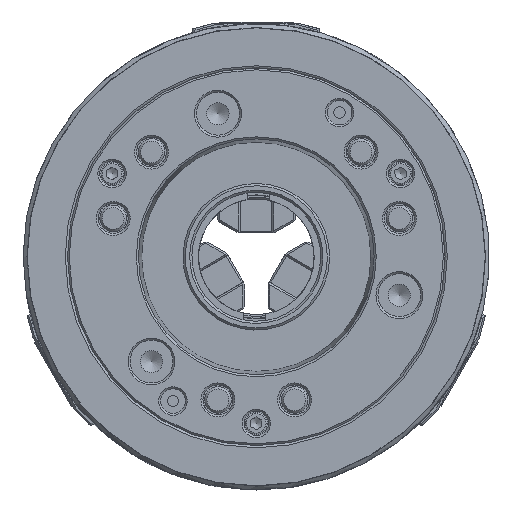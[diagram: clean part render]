
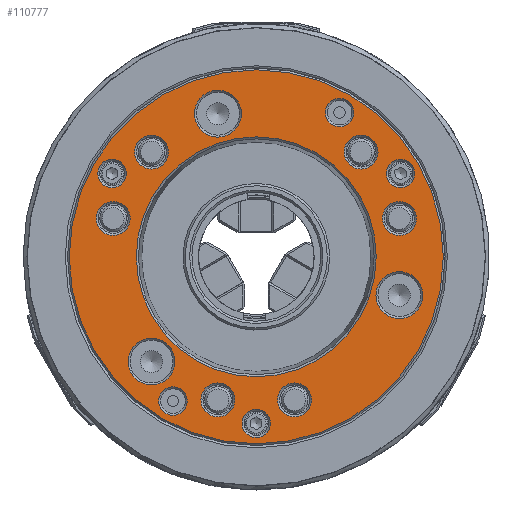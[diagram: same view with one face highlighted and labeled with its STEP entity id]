
A CAD part, front view. The second image highlights one B-rep face of the part: STEP entity #110777.
In plain terms, the highlighted planar face has unit normal (0, -1, 0).
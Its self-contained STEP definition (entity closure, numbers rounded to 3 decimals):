
#31875=PLANE('',#118588);
#32394=FACE_BOUND('',#43412,.T.);
#32395=FACE_BOUND('',#43413,.T.);
#32396=FACE_BOUND('',#43414,.T.);
#32397=FACE_BOUND('',#43415,.T.);
#32398=FACE_BOUND('',#43416,.T.);
#32399=FACE_BOUND('',#43417,.T.);
#32400=FACE_BOUND('',#43418,.T.);
#32401=FACE_BOUND('',#43419,.T.);
#32402=FACE_BOUND('',#43420,.T.);
#32403=FACE_BOUND('',#43421,.T.);
#32404=FACE_BOUND('',#43422,.T.);
#32405=FACE_BOUND('',#43423,.T.);
#32406=FACE_BOUND('',#43424,.T.);
#32407=FACE_BOUND('',#43425,.T.);
#32408=FACE_BOUND('',#43426,.T.);
#37656=FACE_OUTER_BOUND('',#43411,.T.);
#43411=EDGE_LOOP('',(#104083));
#43412=EDGE_LOOP('',(#104084));
#43413=EDGE_LOOP('',(#104085));
#43414=EDGE_LOOP('',(#104086));
#43415=EDGE_LOOP('',(#104087));
#43416=EDGE_LOOP('',(#104088));
#43417=EDGE_LOOP('',(#104089));
#43418=EDGE_LOOP('',(#104090));
#43419=EDGE_LOOP('',(#104091));
#43420=EDGE_LOOP('',(#104092));
#43421=EDGE_LOOP('',(#104093));
#43422=EDGE_LOOP('',(#104094));
#43423=EDGE_LOOP('',(#104095));
#43424=EDGE_LOOP('',(#104096));
#43425=EDGE_LOOP('',(#104097));
#43426=EDGE_LOOP('',(#104098));
#44273=CIRCLE('',#118534,54.012);
#44284=CIRCLE('',#118556,84.2);
#44286=CIRCLE('',#118559,10.55);
#44287=CIRCLE('',#118561,10.55);
#44288=CIRCLE('',#118563,10.55);
#44289=CIRCLE('',#118565,7.65);
#44290=CIRCLE('',#118567,7.65);
#44291=CIRCLE('',#118569,7.65);
#44292=CIRCLE('',#118571,7.65);
#44293=CIRCLE('',#118573,7.65);
#44294=CIRCLE('',#118575,7.65);
#44295=CIRCLE('',#118577,6.4);
#44296=CIRCLE('',#118579,6.4);
#44297=CIRCLE('',#118581,6.4);
#44298=CIRCLE('',#118583,6.4);
#44299=CIRCLE('',#118585,6.4);
#54905=VERTEX_POINT('',#186037);
#54910=VERTEX_POINT('',#186064);
#54912=VERTEX_POINT('',#186069);
#54913=VERTEX_POINT('',#186072);
#54914=VERTEX_POINT('',#186075);
#54915=VERTEX_POINT('',#186078);
#54916=VERTEX_POINT('',#186081);
#54917=VERTEX_POINT('',#186084);
#54918=VERTEX_POINT('',#186087);
#54919=VERTEX_POINT('',#186090);
#54920=VERTEX_POINT('',#186093);
#54921=VERTEX_POINT('',#186096);
#54922=VERTEX_POINT('',#186099);
#54923=VERTEX_POINT('',#186102);
#54924=VERTEX_POINT('',#186105);
#54925=VERTEX_POINT('',#186108);
#71315=EDGE_CURVE('',#54905,#54905,#44273,.T.);
#71326=EDGE_CURVE('',#54910,#54910,#44284,.T.);
#71328=EDGE_CURVE('',#54912,#54912,#44286,.T.);
#71329=EDGE_CURVE('',#54913,#54913,#44287,.T.);
#71330=EDGE_CURVE('',#54914,#54914,#44288,.T.);
#71331=EDGE_CURVE('',#54915,#54915,#44289,.T.);
#71332=EDGE_CURVE('',#54916,#54916,#44290,.T.);
#71333=EDGE_CURVE('',#54917,#54917,#44291,.T.);
#71334=EDGE_CURVE('',#54918,#54918,#44292,.T.);
#71335=EDGE_CURVE('',#54919,#54919,#44293,.T.);
#71336=EDGE_CURVE('',#54920,#54920,#44294,.T.);
#71337=EDGE_CURVE('',#54921,#54921,#44295,.T.);
#71338=EDGE_CURVE('',#54922,#54922,#44296,.T.);
#71339=EDGE_CURVE('',#54923,#54923,#44297,.T.);
#71340=EDGE_CURVE('',#54924,#54924,#44298,.T.);
#71341=EDGE_CURVE('',#54925,#54925,#44299,.T.);
#104083=ORIENTED_EDGE('',*,*,#71326,.T.);
#104084=ORIENTED_EDGE('',*,*,#71341,.T.);
#104085=ORIENTED_EDGE('',*,*,#71340,.T.);
#104086=ORIENTED_EDGE('',*,*,#71339,.T.);
#104087=ORIENTED_EDGE('',*,*,#71338,.T.);
#104088=ORIENTED_EDGE('',*,*,#71337,.T.);
#104089=ORIENTED_EDGE('',*,*,#71336,.T.);
#104090=ORIENTED_EDGE('',*,*,#71335,.T.);
#104091=ORIENTED_EDGE('',*,*,#71334,.T.);
#104092=ORIENTED_EDGE('',*,*,#71333,.T.);
#104093=ORIENTED_EDGE('',*,*,#71332,.T.);
#104094=ORIENTED_EDGE('',*,*,#71331,.T.);
#104095=ORIENTED_EDGE('',*,*,#71330,.T.);
#104096=ORIENTED_EDGE('',*,*,#71329,.T.);
#104097=ORIENTED_EDGE('',*,*,#71328,.T.);
#104098=ORIENTED_EDGE('',*,*,#71315,.T.);
#110777=ADVANCED_FACE('',(#37656,#32394,#32395,#32396,#32397,#32398,#32399,
#32400,#32401,#32402,#32403,#32404,#32405,#32406,#32407,#32408),#31875,
 .T.);
#118534=AXIS2_PLACEMENT_3D('',#186038,#146250,#146251);
#118556=AXIS2_PLACEMENT_3D('',#186065,#146294,#146295);
#118559=AXIS2_PLACEMENT_3D('',#186070,#146300,#146301);
#118561=AXIS2_PLACEMENT_3D('',#186073,#146304,#146305);
#118563=AXIS2_PLACEMENT_3D('',#186076,#146308,#146309);
#118565=AXIS2_PLACEMENT_3D('',#186079,#146312,#146313);
#118567=AXIS2_PLACEMENT_3D('',#186082,#146316,#146317);
#118569=AXIS2_PLACEMENT_3D('',#186085,#146320,#146321);
#118571=AXIS2_PLACEMENT_3D('',#186088,#146324,#146325);
#118573=AXIS2_PLACEMENT_3D('',#186091,#146328,#146329);
#118575=AXIS2_PLACEMENT_3D('',#186094,#146332,#146333);
#118577=AXIS2_PLACEMENT_3D('',#186097,#146336,#146337);
#118579=AXIS2_PLACEMENT_3D('',#186100,#146340,#146341);
#118581=AXIS2_PLACEMENT_3D('',#186103,#146344,#146345);
#118583=AXIS2_PLACEMENT_3D('',#186106,#146348,#146349);
#118585=AXIS2_PLACEMENT_3D('',#186109,#146352,#146353);
#118588=AXIS2_PLACEMENT_3D('',#186112,#146358,#146359);
#146250=DIRECTION('center_axis',(0.,1.,0.));
#146251=DIRECTION('ref_axis',(0.866,0.,-0.5));
#146294=DIRECTION('center_axis',(0.,-1.,0.));
#146295=DIRECTION('ref_axis',(0.866,0.,-0.5));
#146300=DIRECTION('center_axis',(0.,1.,0.));
#146301=DIRECTION('ref_axis',(0.866,0.,-0.5));
#146304=DIRECTION('center_axis',(0.,1.,0.));
#146305=DIRECTION('ref_axis',(-0.866,0.,
-0.5));
#146308=DIRECTION('center_axis',(0.,1.,0.));
#146309=DIRECTION('ref_axis',(0.,0.,
1.));
#146312=DIRECTION('center_axis',(0.,1.,0.));
#146313=DIRECTION('ref_axis',(0.866,0.,-0.5));
#146316=DIRECTION('center_axis',(0.,1.,0.));
#146317=DIRECTION('ref_axis',(0.866,0.,-0.5));
#146320=DIRECTION('center_axis',(0.,1.,0.));
#146321=DIRECTION('ref_axis',(-0.866,0.,
-0.5));
#146324=DIRECTION('center_axis',(0.,1.,0.));
#146325=DIRECTION('ref_axis',(-0.866,0.,
-0.5));
#146328=DIRECTION('center_axis',(0.,1.,0.));
#146329=DIRECTION('ref_axis',(0.,0.,
1.));
#146332=DIRECTION('center_axis',(0.,1.,0.));
#146333=DIRECTION('ref_axis',(0.,0.,
1.));
#146336=DIRECTION('center_axis',(0.,1.,0.));
#146337=DIRECTION('ref_axis',(0.866,0.,-0.5));
#146340=DIRECTION('center_axis',(0.,1.,0.));
#146341=DIRECTION('ref_axis',(-0.866,0.,
0.5));
#146344=DIRECTION('center_axis',(0.,1.,0.));
#146345=DIRECTION('ref_axis',(0.866,0.,-0.5));
#146348=DIRECTION('center_axis',(0.,1.,0.));
#146349=DIRECTION('ref_axis',(-0.866,0.,
-0.5));
#146352=DIRECTION('center_axis',(0.,1.,0.));
#146353=DIRECTION('ref_axis',(0.,0.,
1.));
#146358=DIRECTION('center_axis',(0.,-1.,0.));
#146359=DIRECTION('ref_axis',(0.5,0.,0.866));
#186037=CARTESIAN_POINT('',(-46.776,-12.,27.006));
#186038=CARTESIAN_POINT('Origin',(0.,-12.,0.));
#186064=CARTESIAN_POINT('',(-72.919,-12.,42.1));
#186065=CARTESIAN_POINT('Origin',(0.,-12.,0.));
#186069=CARTESIAN_POINT('',(-56.301,-12.,-41.889));
#186070=CARTESIAN_POINT('Origin',(-47.164,-12.,-47.164));
#186072=CARTESIAN_POINT('',(-8.127,-12.,69.702));
#186073=CARTESIAN_POINT('Origin',(-17.263,-12.,64.427));
#186075=CARTESIAN_POINT('',(64.427,-12.,-27.813));
#186076=CARTESIAN_POINT('Origin',(64.427,-12.,-17.263));
#186078=CARTESIAN_POINT('',(40.539,-12.,50.989));
#186079=CARTESIAN_POINT('Origin',(47.164,-12.,47.164));
#186081=CARTESIAN_POINT('',(57.802,-12.,21.088));
#186082=CARTESIAN_POINT('Origin',(64.427,-12.,17.263));
#186084=CARTESIAN_POINT('',(23.888,-12.,-60.602));
#186085=CARTESIAN_POINT('Origin',(17.263,-12.,-64.427));
#186087=CARTESIAN_POINT('',(-10.638,-12.,-60.602));
#186088=CARTESIAN_POINT('Origin',(-17.263,-12.,-64.427));
#186090=CARTESIAN_POINT('',(-64.427,-12.,9.613));
#186091=CARTESIAN_POINT('Origin',(-64.427,-12.,17.263));
#186093=CARTESIAN_POINT('',(-47.164,-12.,39.514));
#186094=CARTESIAN_POINT('Origin',(-47.164,-12.,47.164));
#186096=CARTESIAN_POINT('',(-43.043,-12.,-61.752));
#186097=CARTESIAN_POINT('Origin',(-37.5,-12.,-64.952));
#186099=CARTESIAN_POINT('',(43.043,-12.,61.752));
#186100=CARTESIAN_POINT('Origin',(37.5,-12.,64.952));
#186102=CARTESIAN_POINT('',(59.409,-12.,40.7));
#186103=CARTESIAN_POINT('Origin',(64.952,-12.,37.5));
#186105=CARTESIAN_POINT('',(5.543,-12.,-71.8));
#186106=CARTESIAN_POINT('Origin',(0.,-12.,-75.));
#186108=CARTESIAN_POINT('',(-64.952,-12.,31.1));
#186109=CARTESIAN_POINT('Origin',(-64.952,-12.,37.5));
#186112=CARTESIAN_POINT('Origin',(-73.612,-12.,42.5));
